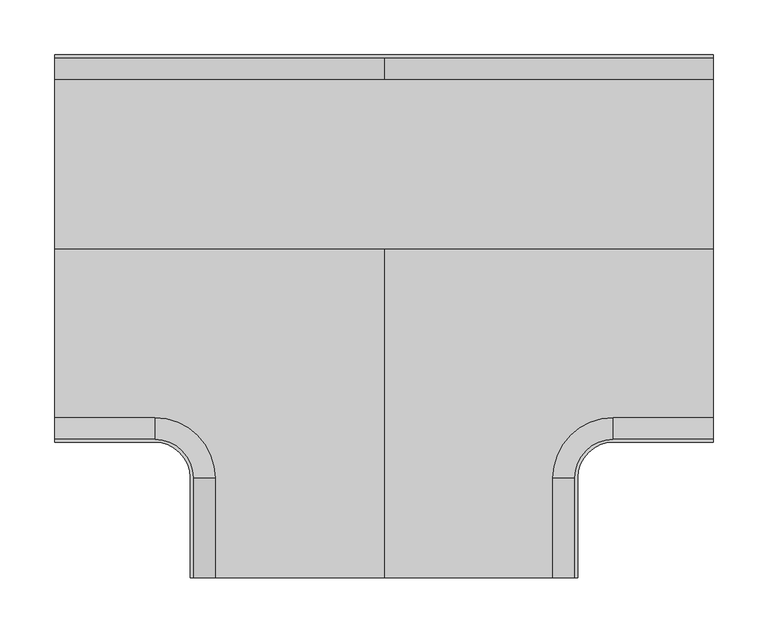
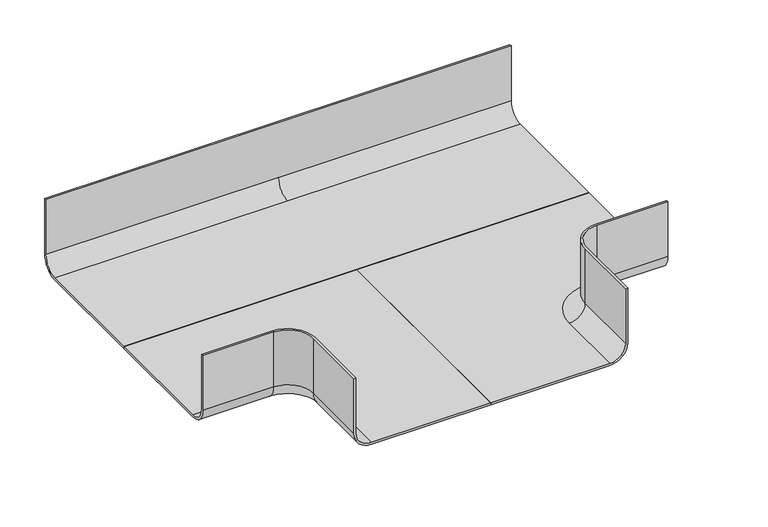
"""IFC4 building model written with IfcOpenShell, lengths in millimetres: cable carrier fitting geometry, ССT_Hyperline_FBTR-TEE Ответвитель Т-образный пластиковый : Ответвитель Т-образный пластиковый."""

from ifc_helpers import new_model, si_unit, point, frame, origin, place, context, project, spatial, polyline, circle_curve, ellipse_curve, trimmed, source, transform, mapped, element, save
from ifc_brep_helpers import plane_surface, cylinder_surface, revolved_surface, advanced_brep


def cable_carrier_fitting_4f32f718(model_context):
    return source(origin(), model_context, "Body", "AdvancedBrep", [
        advanced_brep(
        [(-300.0, 176.54, -25.0), (-300.0, 154.0, -47.54), (-300.0, 0.0, -47.54), (-300.0, 0.0, -45.0), (-300.0, 154.0, -45.0), (-300.0, 174.0, -25.0), (-300.0, 174.0, 50.0), (-300.0, 176.54, 50.0), (0.0, 176.54, -25.0), (0.0, 154.0, -47.54), (300.0, 154.0, -47.54), (300.0, 0.0, -47.54), (300.0, 0.0, -45.0), (300.0, 154.0, -45.0), (0.0, 154.0, -45.0), (0.0, 174.0, -25.0), (300.0, 174.0, -25.0), (300.0, 174.0, 50.0), (300.0, 176.54, 50.0), (300.0, 176.54, -25.0)],
        [
            (0, 1, circle_curve(frame((-300.0, 154.0, -25.0), z_axis=(-1.0, 0.0, 0.0), x_axis=(0.0, 1.0, 0.0)), 22.54)),
            (1, 2),
            (2, 3),
            (3, 4),
            (4, 5, circle_curve(frame((-300.0, 154.0, -25.0), z_axis=(1.0, 0.0, 0.0), x_axis=(0.0, 1.0, 0.0)), 20.0)),
            (5, 6),
            (6, 7),
            (7, 0),
            (0, 8),
            (8, 9, circle_curve(frame((0.0, 154.0, -25.0), z_axis=(-1.0, 0.0, 0.0), x_axis=(0.0, 1.0, 0.0)), 22.54)),
            (9, 1),
            (9, 10),
            (10, 11),
            (11, 2),
            (11, 12),
            (12, 3),
            (12, 13),
            (13, 14),
            (14, 4),
            (14, 15, circle_curve(frame((0.0, 154.0, -25.0), z_axis=(1.0, 0.0, 0.0), x_axis=(0.0, 1.0, 0.0)), 20.0)),
            (15, 5),
            (15, 16),
            (16, 17),
            (17, 6),
            (7, 18),
            (18, 19),
            (19, 8),
            (18, 17),
            (16, 13, circle_curve(frame((300.0, 154.0, -25.0), z_axis=(-1.0, 0.0, 0.0), x_axis=(0.0, 1.0, 0.0)), 20.0)),
            (10, 19, circle_curve(frame((300.0, 154.0, -25.0), z_axis=(1.0, 0.0, 0.0), x_axis=(0.0, 1.0, 0.0)), 22.54)),
        ],
        [
            plane_surface(frame((-300.0, 174.0, 2.5), z_axis=(-1.0, 0.0, 0.0), x_axis=(0.0, 0.0, 1.0))),
            cylinder_surface(frame((-300.0, 154.0, -25.0), z_axis=(-1.0, 0.0, 0.0), x_axis=(0.0, 1.0, 0.0)), 22.54),
            plane_surface(frame((-300.0, 154.0, -47.54), z_axis=(0.0, 0.0, -1.0), x_axis=(1.0, 0.0, 0.0))),
            plane_surface(frame((-300.0, 0.0, -47.54), z_axis=(0.0, -1.0, 0.0), x_axis=(1.0, 0.0, 0.0))),
            plane_surface(frame((-300.0, 0.0, -45.0), z_axis=(0.0, 0.0, 1.0), x_axis=(1.0, 0.0, 0.0))),
            revolved_surface(polyline([(0.0, 174.0, -25.0), (-300.0, 174.0, -25.0)]), (-300.0, 154.0, -25.0), (1.0, 0.0, 0.0)),
            plane_surface(frame((-300.0, 174.0, -25.0), z_axis=(0.0, -1.0, 0.0), x_axis=(1.0, 0.0, 0.0))),
            plane_surface(frame((-300.0, 176.54, 50.0), z_axis=(0.0, 1.0, 0.0), x_axis=(1.0, 0.0, 0.0))),
            plane_surface(frame((300.0, 174.0, 2.5), z_axis=(1.0, 0.0, 0.0), x_axis=(0.0, 0.0, 1.0))),
            plane_surface(frame((-300.0, 174.0, 50.0), z_axis=(0.0, 0.0, 1.0), x_axis=(1.0, 0.0, 0.0))),
            cylinder_surface(frame((0.0, 154.0, -25.0), z_axis=(-1.0, 0.0, 0.0), x_axis=(0.0, 1.0, 0.0)), 22.54),
            revolved_surface(polyline([(300.0, 174.0, -25.0), (0.0, 174.0, -25.0)]), (0.0, 154.0, -25.0), (1.0, 0.0, 0.0)),
        ],
        [
            (0, [[1, 2, 3, 4, 5, 6, 7, 8]]),
            (1, [[-1, 9, 10, 11]]),
            (2, [[-2, -11, 12, 13, 14]]),
            (3, [[-3, -14, 15, 16]]),
            (4, [[-4, -16, 17, 18, 19]]),
            (5, [[-5, -19, 20, 21]]),
            (6, [[-6, -21, 22, 23, 24]]),
            (7, [[-8, 25, 26, 27, -9]]),
            (8, [[-26, 28, -23, 29, -17, -15, -13, 30]]),
            (9, [[-25, -7, -24, -28]]),
            (10, [[-10, -27, -30, -12]]),
            (11, [[-20, -18, -29, -22]]),
        ],
    ),
        advanced_brep(
        [(-300.0, -176.54, -25.0), (-300.0, -176.54, 50.0), (-300.0, -174.0, 50.0), (-300.0, -174.0, -25.0), (-300.0, -154.0, -45.0), (-300.0, 0.0, -45.0), (-300.0, 0.0, -47.54), (-300.0, -154.0, -47.54), (-209.0, -154.0, -47.54), (-209.0, -176.54, -25.0), (-209.0, -174.0, -25.0), (-209.0, -154.0, -45.0), (-209.0, -174.0, 50.0), (-209.0, -176.54, 50.0), (-176.54, -209.0, 50.0), (-176.54, -300.0, 50.0), (-174.0, -300.0, 50.0), (-174.0, -209.0, 50.0), (-154.0, -209.0, -47.54), (-176.54, -209.0, -25.0), (-174.0, -209.0, -25.0), (-154.0, -209.0, -45.0), (0.0, -300.0, -47.54), (0.0, -300.0, -45.0), (-154.0, -300.0, -45.0), (-174.0, -300.0, -25.0), (-176.54, -300.0, -25.0), (-154.0, -300.0, -47.54), (0.0, 0.0, -45.0), (0.0, 0.0, -47.54)],
        [
            (0, 1),
            (1, 2),
            (2, 3),
            (3, 4, circle_curve(frame((-300.0, -154.0, -25.0), z_axis=(1.0, 0.0, 0.0), x_axis=(0.0, -1.0, 0.0)), 20.0)),
            (4, 5),
            (5, 6),
            (6, 7),
            (7, 0, circle_curve(frame((-300.0, -154.0, -25.0), z_axis=(-1.0, 0.0, 0.0), x_axis=(0.0, -1.0, 0.0)), 22.54)),
            (7, 8),
            (8, 9, circle_curve(frame((-209.0, -154.0, -25.0), z_axis=(-1.0, 0.0, 0.0), x_axis=(0.0, -1.0, 0.0)), 22.54)),
            (9, 0),
            (3, 10),
            (10, 11, circle_curve(frame((-209.0, -154.0, -25.0), z_axis=(1.0, 0.0, 0.0), x_axis=(0.0, -1.0, 0.0)), 20.0)),
            (11, 4),
            (2, 12),
            (12, 10),
            (1, 13),
            (13, 14, circle_curve(frame((-209.0, -209.0, 50.0), z_axis=(0.0, 0.0, -1.0), x_axis=(0.0, 1.0, 0.0)), 32.46)),
            (14, 15),
            (15, 16),
            (16, 17),
            (17, 12, circle_curve(frame((-209.0, -209.0, 50.0), z_axis=(0.0, 0.0, 1.0), x_axis=(0.0, 1.0, 0.0)), 35.0)),
            (9, 13),
            (8, 18, circle_curve(frame((-209.0, -209.0, -47.54), z_axis=(0.0, 0.0, -1.0), x_axis=(0.0, 1.0, 0.0)), 55.0)),
            (18, 19, circle_curve(frame((-154.0, -209.0, -25.0), z_axis=(0.0, 1.0, 0.0), x_axis=(-1.0, 0.0, 0.0)), 22.54)),
            (19, 9, circle_curve(frame((-209.0, -209.0, -25.0), z_axis=(0.0, 0.0, 1.0), x_axis=(0.0, 1.0, 0.0)), 32.46)),
            (10, 20, circle_curve(frame((-209.0, -209.0, -25.0), z_axis=(0.0, 0.0, -1.0), x_axis=(0.0, 1.0, 0.0)), 35.0)),
            (20, 21, circle_curve(frame((-154.0, -209.0, -25.0), z_axis=(0.0, -1.0, 0.0), x_axis=(-1.0, 0.0, 0.0)), 20.0)),
            (21, 11, circle_curve(frame((-209.0, -209.0, -45.0), z_axis=(0.0, 0.0, 1.0), x_axis=(0.0, 1.0, 0.0)), 55.0)),
            (17, 20),
            (19, 14),
            (22, 23),
            (23, 24),
            (24, 25, circle_curve(frame((-154.0, -300.0, -25.0), z_axis=(0.0, 1.0, 0.0), x_axis=(-1.0, 0.0, 0.0)), 20.0)),
            (25, 16),
            (15, 26),
            (26, 27, circle_curve(frame((-154.0, -300.0, -25.0), z_axis=(0.0, -1.0, 0.0), x_axis=(-1.0, 0.0, 0.0)), 22.54)),
            (27, 22),
            (26, 19),
            (18, 27),
            (20, 25),
            (24, 21),
            (23, 28),
            (28, 5),
            (6, 29),
            (29, 22),
            (28, 29),
        ],
        [
            plane_surface(frame((-300.0, -174.0, 0.0), z_axis=(-1.0, 0.0, 0.0), x_axis=(0.0, 0.0, 1.0))),
            cylinder_surface(frame((-300.0, -154.0, -25.0), z_axis=(-1.0, 0.0, 0.0), x_axis=(0.0, -1.0, 0.0)), 22.54),
            revolved_surface(polyline([(-209.0, -174.0, -25.0), (-300.0, -174.0, -25.0)]), (-300.0, -154.0, -25.0), (1.0, 0.0, 0.0)),
            plane_surface(frame((-300.0, -174.0, -25.0), z_axis=(0.0, 1.0, 0.0), x_axis=(1.0, 0.0, 0.0))),
            plane_surface(frame((-300.0, -174.0, 50.0), z_axis=(0.0, 0.0, 1.0), x_axis=(1.0, 0.0, 0.0))),
            plane_surface(frame((-300.0, -176.54, 50.0), z_axis=(0.0, -1.0, 0.0), x_axis=(1.0, 0.0, 0.0))),
            revolved_surface(trimmed(ellipse_curve(frame((-209.0, -154.0, -25.0), z_axis=(1.0, 0.0, 0.0), x_axis=(0.0, -1.0, 0.0)), 22.54, 22.54), [point((-209.0, -176.54, -25.0))], [point((-209.0, -154.0, -47.54))], True, "CARTESIAN"), (-209.0, -209.0, 0.0), (0.0, 0.0, 1.0)),
            revolved_surface(trimmed(ellipse_curve(frame((-209.0, -154.0, -25.0), z_axis=(-1.0, 0.0, 0.0), x_axis=(0.0, -1.0, 0.0)), 20.0, 20.0), [point((-209.0, -154.0, -45.0))], [point((-209.0, -174.0, -25.0))], True, "CARTESIAN"), (-209.0, -209.0, 0.0), (0.0, 0.0, 1.0)),
            cylinder_surface(frame((-209.0, -209.0, 0.0), z_axis=(0.0, 0.0, 1.0), x_axis=(0.0, 1.0, 0.0)), 35.0),
            revolved_surface(polyline([(-209.0, -176.54, 50.0), (-209.0, -176.54, -25.0)]), (-209.0, -209.0, 0.0), (0.0, 0.0, 1.0)),
            plane_surface(frame((-174.0, -300.0, 0.0), z_axis=(0.0, -1.0, 0.0), x_axis=(0.0, 0.0, 1.0))),
            cylinder_surface(frame((-154.0, -209.0, -25.0), z_axis=(0.0, 1.0, 0.0), x_axis=(-1.0, 0.0, 0.0)), 22.54),
            revolved_surface(polyline([(-174.0, -300.0, -25.0), (-174.0, -209.0, -25.0)]), (-154.0, -209.0, -25.0), (0.0, -1.0, 0.0)),
            plane_surface(frame((-174.0, -209.0, -25.0), z_axis=(1.0, 0.0, 0.0), x_axis=(0.0, -1.0, 0.0))),
            plane_surface(frame((-176.54, -209.0, 50.0), z_axis=(-1.0, 0.0, 0.0), x_axis=(0.0, -1.0, 0.0))),
            plane_surface(frame((0.0, -209.0, -45.0), z_axis=(0.0, 0.0, 1.0), x_axis=(0.0, 1.0, 0.0))),
            plane_surface(frame((0.0, -209.0, -47.54), z_axis=(0.0, 0.0, -1.0), x_axis=(0.0, -1.0, 0.0))),
            plane_surface(frame((-209.0, 0.0, -45.0), z_axis=(0.0, 1.0, 0.0), x_axis=(0.0, 0.0, -1.0))),
            plane_surface(frame((0.0, 0.0, -45.0), z_axis=(1.0, 0.0, 0.0), x_axis=(0.0, 0.0, -1.0))),
        ],
        [
            (0, [[1, 2, 3, 4, 5, 6, 7, 8]]),
            (1, [[9, 10, 11, -8]]),
            (2, [[12, 13, 14, -4]]),
            (3, [[15, 16, -12, -3]]),
            (4, [[17, 18, 19, 20, 21, 22, -15, -2]]),
            (5, [[-11, 23, -17, -1]]),
            (6, [[24, 25, 26, -10]]),
            (7, [[-13, 27, 28, 29]]),
            (8, [[-22, 30, -27, -16]]),
            (9, [[-23, -26, 31, -18]]),
            (10, [[32, 33, 34, 35, -20, 36, 37, 38]]),
            (11, [[-37, 39, -25, 40]]),
            (12, [[-28, 41, -34, 42]]),
            (13, [[-35, -41, -30, -21]]),
            (14, [[-31, -39, -36, -19]]),
            (15, [[43, 44, -5, -14, -29, -42, -33]]),
            (16, [[45, 46, -38, -40, -24, -9, -7]]),
            (17, [[47, -45, -6, -44]]),
            (18, [[-32, -46, -47, -43]]),
        ],
    ),
        advanced_brep(
        [(300.0, -176.54, -25.0), (300.0, -154.0, -47.54), (300.0, 0.0, -47.54), (300.0, 0.0, -45.0), (300.0, -154.0, -45.0), (300.0, -174.0, -25.0), (300.0, -174.0, 50.0), (300.0, -176.54, 50.0), (209.0, -176.54, -25.0), (209.0, -154.0, -47.54), (209.0, -154.0, -45.0), (209.0, -174.0, -25.0), (209.0, -174.0, 50.0), (174.0, -209.0, 50.0), (174.0, -300.0, 50.0), (176.54, -300.0, 50.0), (176.54, -209.0, 50.0), (209.0, -176.54, 50.0), (176.54, -209.0, -25.0), (154.0, -209.0, -47.54), (154.0, -209.0, -45.0), (174.0, -209.0, -25.0), (0.0, -300.0, -47.54), (154.0, -300.0, -47.54), (176.54, -300.0, -25.0), (174.0, -300.0, -25.0), (154.0, -300.0, -45.0), (0.0, -300.0, -45.0), (0.0, 0.0, -45.0), (0.0, 0.0, -47.54)],
        [
            (0, 1, circle_curve(frame((300.0, -154.0, -25.0), z_axis=(1.0, 0.0, 0.0), x_axis=(0.0, -1.0, 0.0)), 22.54)),
            (1, 2),
            (2, 3),
            (3, 4),
            (4, 5, circle_curve(frame((300.0, -154.0, -25.0), z_axis=(-1.0, 0.0, 0.0), x_axis=(0.0, -1.0, 0.0)), 20.0)),
            (5, 6),
            (6, 7),
            (7, 0),
            (0, 8),
            (8, 9, circle_curve(frame((209.0, -154.0, -25.0), z_axis=(1.0, 0.0, 0.0), x_axis=(0.0, -1.0, 0.0)), 22.54)),
            (9, 1),
            (4, 10),
            (10, 11, circle_curve(frame((209.0, -154.0, -25.0), z_axis=(-1.0, 0.0, 0.0), x_axis=(0.0, -1.0, 0.0)), 20.0)),
            (11, 5),
            (11, 12),
            (12, 6),
            (12, 13, circle_curve(frame((209.0, -209.0, 50.0), z_axis=(0.0, 0.0, 1.0), x_axis=(0.0, 1.0, 0.0)), 35.0)),
            (13, 14),
            (14, 15),
            (15, 16),
            (16, 17, circle_curve(frame((209.0, -209.0, 50.0), z_axis=(0.0, 0.0, -1.0), x_axis=(0.0, 1.0, 0.0)), 32.46)),
            (17, 7),
            (17, 8),
            (8, 18, circle_curve(frame((209.0, -209.0, -25.0), z_axis=(0.0, 0.0, 1.0), x_axis=(0.0, 1.0, 0.0)), 32.46)),
            (18, 19, circle_curve(frame((154.0, -209.0, -25.0), z_axis=(0.0, 1.0, 0.0), x_axis=(1.0, 0.0, 0.0)), 22.54)),
            (19, 9, circle_curve(frame((209.0, -209.0, -47.54), z_axis=(0.0, 0.0, -1.0), x_axis=(0.0, 1.0, 0.0)), 55.0)),
            (10, 20, circle_curve(frame((209.0, -209.0, -45.0), z_axis=(0.0, 0.0, 1.0), x_axis=(0.0, 1.0, 0.0)), 55.0)),
            (20, 21, circle_curve(frame((154.0, -209.0, -25.0), z_axis=(0.0, -1.0, 0.0), x_axis=(1.0, 0.0, 0.0)), 20.0)),
            (21, 11, circle_curve(frame((209.0, -209.0, -25.0), z_axis=(0.0, 0.0, -1.0), x_axis=(0.0, 1.0, 0.0)), 35.0)),
            (21, 13),
            (16, 18),
            (22, 23),
            (23, 24, circle_curve(frame((154.0, -300.0, -25.0), z_axis=(0.0, -1.0, 0.0), x_axis=(1.0, 0.0, 0.0)), 22.54)),
            (24, 15),
            (14, 25),
            (25, 26, circle_curve(frame((154.0, -300.0, -25.0), z_axis=(0.0, 1.0, 0.0), x_axis=(1.0, 0.0, 0.0)), 20.0)),
            (26, 27),
            (27, 22),
            (23, 19),
            (18, 24),
            (20, 26),
            (25, 21),
            (3, 28),
            (28, 27),
            (22, 29),
            (29, 2),
            (29, 28),
        ],
        [
            plane_surface(frame((300.0, -174.0, 0.0), z_axis=(1.0, 0.0, 0.0), x_axis=(0.0, 0.0, 1.0))),
            cylinder_surface(frame((300.0, -154.0, -25.0), z_axis=(1.0, 0.0, 0.0), x_axis=(0.0, -1.0, 0.0)), 22.54),
            revolved_surface(polyline([(209.0, -174.0, -25.0), (300.0, -174.0, -25.0)]), (300.0, -154.0, -25.0), (-1.0, 0.0, 0.0)),
            plane_surface(frame((300.0, -174.0, -25.0), z_axis=(0.0, 1.0, 0.0), x_axis=(-1.0, 0.0, 0.0))),
            plane_surface(frame((300.0, -174.0, 50.0), z_axis=(0.0, 0.0, 1.0), x_axis=(-1.0, 0.0, 0.0))),
            plane_surface(frame((300.0, -176.54, 50.0), z_axis=(0.0, -1.0, 0.0), x_axis=(-1.0, 0.0, 0.0))),
            revolved_surface(trimmed(ellipse_curve(frame((209.0, -154.0, -25.0), z_axis=(1.0, 0.0, 0.0), x_axis=(0.0, -1.0, 0.0)), 22.54, 22.54), [point((209.0, -176.54, -25.0))], [point((209.0, -154.0, -47.54))], True, "CARTESIAN"), (209.0, -209.0, 0.0), (0.0, 0.0, 1.0)),
            revolved_surface(trimmed(ellipse_curve(frame((209.0, -154.0, -25.0), z_axis=(-1.0, 0.0, 0.0), x_axis=(0.0, -1.0, 0.0)), 20.0, 20.0), [point((209.0, -154.0, -45.0))], [point((209.0, -174.0, -25.0))], True, "CARTESIAN"), (209.0, -209.0, 0.0), (0.0, 0.0, 1.0)),
            cylinder_surface(frame((209.0, -209.0, 0.0), z_axis=(0.0, 0.0, 1.0), x_axis=(0.0, 1.0, 0.0)), 35.0),
            revolved_surface(polyline([(209.0, -176.54, 50.0), (209.0, -176.54, -25.0)]), (209.0, -209.0, 0.0), (0.0, 0.0, 1.0)),
            plane_surface(frame((174.0, -300.0, 0.0), z_axis=(0.0, -1.0, 0.0), x_axis=(0.0, 0.0, 1.0))),
            cylinder_surface(frame((154.0, -209.0, -25.0), z_axis=(0.0, 1.0, 0.0), x_axis=(1.0, 0.0, 0.0)), 22.54),
            revolved_surface(polyline([(174.0, -300.0, -25.0), (174.0, -209.0, -25.0)]), (154.0, -209.0, -25.0), (0.0, -1.0, 0.0)),
            plane_surface(frame((174.0, -209.0, -25.0), z_axis=(-1.0, 0.0, 0.0), x_axis=(0.0, -1.0, 0.0))),
            plane_surface(frame((176.54, -209.0, 50.0), z_axis=(1.0, 0.0, 0.0), x_axis=(0.0, -1.0, 0.0))),
            plane_surface(frame((0.0, -209.0, -45.0), z_axis=(0.0, 0.0, 1.0), x_axis=(0.0, 1.0, 0.0))),
            plane_surface(frame((0.0, -209.0, -47.54), z_axis=(0.0, 0.0, -1.0), x_axis=(0.0, -1.0, 0.0))),
            plane_surface(frame((209.0, 0.0, -45.0), z_axis=(0.0, 1.0, 0.0), x_axis=(0.0, 0.0, -1.0))),
            plane_surface(frame((0.0, 0.0, -45.0), z_axis=(-1.0, 0.0, 0.0), x_axis=(0.0, 0.0, -1.0))),
        ],
        [
            (0, [[1, 2, 3, 4, 5, 6, 7, 8]]),
            (1, [[-1, 9, 10, 11]]),
            (2, [[-5, 12, 13, 14]]),
            (3, [[-6, -14, 15, 16]]),
            (4, [[-7, -16, 17, 18, 19, 20, 21, 22]]),
            (5, [[-8, -22, 23, -9]]),
            (6, [[-10, 24, 25, 26]]),
            (7, [[27, 28, 29, -13]]),
            (8, [[-15, -29, 30, -17]]),
            (9, [[-21, 31, -24, -23]]),
            (10, [[32, 33, 34, -19, 35, 36, 37, 38]]),
            (11, [[39, -25, 40, -33]]),
            (12, [[41, -36, 42, -28]]),
            (13, [[-18, -30, -42, -35]]),
            (14, [[-20, -34, -40, -31]]),
            (15, [[-37, -41, -27, -12, -4, 43, 44]]),
            (16, [[-2, -11, -26, -39, -32, 45, 46]]),
            (17, [[-43, -3, -46, 47]]),
            (18, [[-44, -47, -45, -38]]),
        ],
    ),
    ])


if __name__ == "__main__":
    model = new_model("IFC4")
    model_context = context("Model", 3, world=origin())
    ifc_project = project(units=[si_unit("LENGTHUNIT", "METRE", prefix="MILLI")], contexts=[model_context])
    site = spatial("IfcSite", under=ifc_project)
    building = spatial("IfcBuilding", under=site)
    placement = place(None, origin())
    cable_carrier_fitting_shape = cable_carrier_fitting_4f32f718(model_context)
    element("IfcCableCarrierFitting", 1, ObjectType="ССT_Hyperline_FBTR-TEE Ответвитель Т-образный пластиковый : Ответвитель Т-образный пластиковый", at=placement, inside=building, context=model_context, shape_type="MappedRepresentation", body=[
        mapped(cable_carrier_fitting_shape, transform((0.0, 0.0, 0.0), x_axis=(1.0, 0.0, 0.0), y_axis=(0.0, 1.0, 0.0), z_axis=(0.0, 0.0, 1.0))),
    ])
    save(model, "model.ifc")
